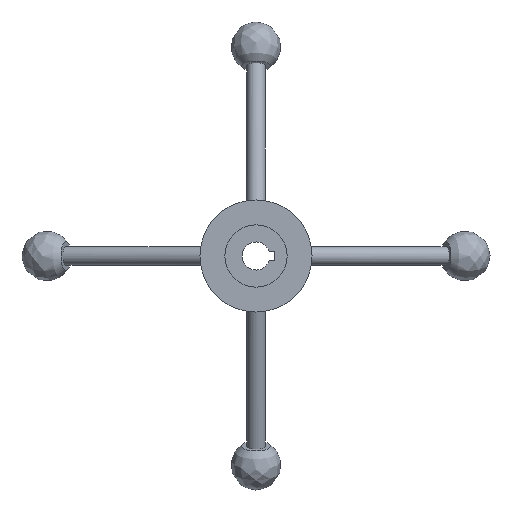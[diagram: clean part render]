
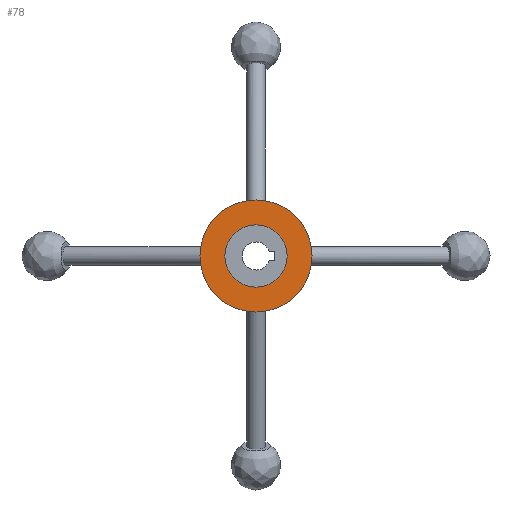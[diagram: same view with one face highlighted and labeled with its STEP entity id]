
A CAD part, front view. The second image highlights one B-rep face of the part: STEP entity #78.
In plain terms, the highlighted planar face has unit normal (0, -1, 0).
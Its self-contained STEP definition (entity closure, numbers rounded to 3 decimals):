
#78 = ADVANCED_FACE( '', ( #107, #108 ), #109, .F. );
#107 = FACE_BOUND( '', #173, .T. );
#108 = FACE_OUTER_BOUND( '', #174, .T. );
#109 = PLANE( '', #175 );
#173 = EDGE_LOOP( '', ( #384 ) );
#174 = EDGE_LOOP( '', ( #385 ) );
#175 = AXIS2_PLACEMENT_3D( '', #386, #387, #388 );
#384 = ORIENTED_EDGE( '', *, *, #489, .F. );
#385 = ORIENTED_EDGE( '', *, *, #490, .T. );
#386 = CARTESIAN_POINT( '', ( 36., 14., 0. ) );
#387 = DIRECTION( '', ( 0., 1., 0. ) );
#388 = DIRECTION( '', ( 0., 0., 1. ) );
#489 = EDGE_CURVE( '', #529, #529, #530, .T. );
#490 = EDGE_CURVE( '', #531, #531, #532, .T. );
#529 = VERTEX_POINT( '', #668 );
#530 = CIRCLE( '', #669, 20. );
#531 = VERTEX_POINT( '', #670 );
#532 = CIRCLE( '', #671, 36. );
#668 = CARTESIAN_POINT( '', ( 0., 14., -20. ) );
#669 = AXIS2_PLACEMENT_3D( '', #977, #978, #979 );
#670 = CARTESIAN_POINT( '', ( 0., 14., -36. ) );
#671 = AXIS2_PLACEMENT_3D( '', #980, #981, #982 );
#977 = CARTESIAN_POINT( '', ( 0., 14., 0. ) );
#978 = DIRECTION( '', ( 0., -1., 0. ) );
#979 = DIRECTION( '', ( 0., 0., -1. ) );
#980 = CARTESIAN_POINT( '', ( 0., 14., 0. ) );
#981 = DIRECTION( '', ( 0., -1., 0. ) );
#982 = DIRECTION( '', ( 0., 0., -1. ) );
